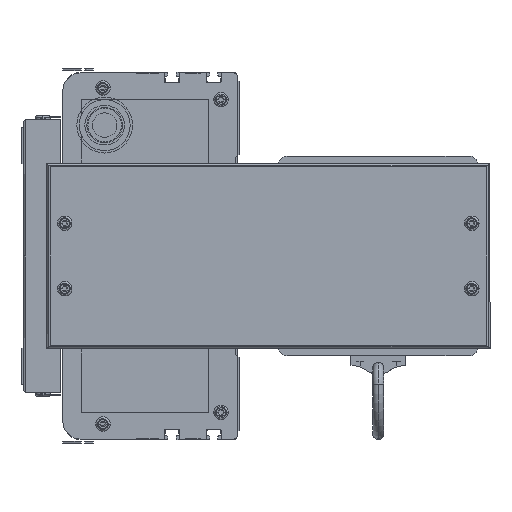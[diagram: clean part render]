
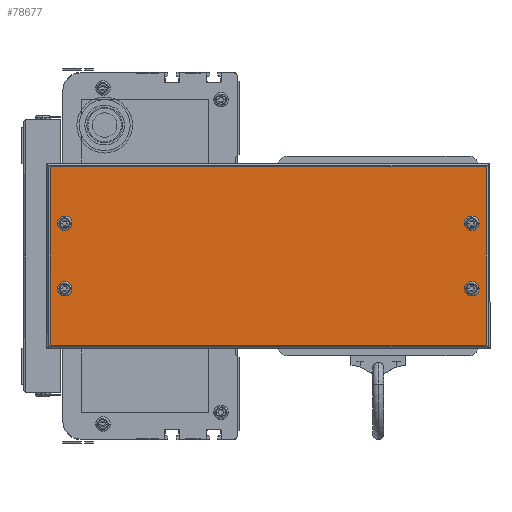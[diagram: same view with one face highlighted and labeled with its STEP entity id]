
A CAD part, left-side view. The second image highlights one B-rep face of the part: STEP entity #78677.
In plain terms, the highlighted planar face has unit normal (-1, 0, 0) as drawn and (1, 0, 0) by its records, which use the part's own axes.
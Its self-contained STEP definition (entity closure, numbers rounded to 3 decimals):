
#26297 = AXIS2_PLACEMENT_3D ( 'NONE', #26326, #26311, #26310 ) ;
#26308 = CARTESIAN_POINT ( 'NONE',  ( 50., 234., -30.5 ) ) ;
#26310 = DIRECTION ( 'NONE',  ( 0., 0., -1. ) ) ;
#26311 = DIRECTION ( 'NONE',  ( 1., 0., 0. ) ) ;
#26313 = CIRCLE ( 'NONE', #26297, 2.5 ) ;
#26319 = CARTESIAN_POINT ( 'NONE',  ( 50., 234., -35.5 ) ) ;
#26326 = CARTESIAN_POINT ( 'NONE',  ( 50., 234., -33. ) ) ;
#27060 = CARTESIAN_POINT ( 'NONE',  ( 50., 10., -66.5 ) ) ;
#28652 = CARTESIAN_POINT ( 'NONE',  ( 50., 2., -100. ) ) ;
#28706 = DIRECTION ( 'NONE',  ( 0., 1., 0. ) ) ;
#28708 = VECTOR ( 'NONE', #28706, 1000. ) ;
#28709 = CARTESIAN_POINT ( 'NONE',  ( 50., 244., -100. ) ) ;
#28713 = LINE ( 'NONE', #28709, #28708 ) ;
#29557 = DIRECTION ( 'NONE',  ( 0., -1., 0. ) ) ;
#29559 = VECTOR ( 'NONE', #29557, 1000. ) ;
#29560 = CARTESIAN_POINT ( 'NONE',  ( 50., 244., -2. ) ) ;
#29568 = VECTOR ( 'NONE', #29576, 1000. ) ;
#29576 = DIRECTION ( 'NONE',  ( 0., 0., -1. ) ) ;
#29578 = CARTESIAN_POINT ( 'NONE',  ( 50., 2., 0. ) ) ;
#29606 = LINE ( 'NONE', #29560, #29559 ) ;
#29614 = LINE ( 'NONE', #29578, #29568 ) ;
#29629 = CARTESIAN_POINT ( 'NONE',  ( 50., 10., -33. ) ) ;
#29633 = AXIS2_PLACEMENT_3D ( 'NONE', #29629, #29759, #29757 ) ;
#29754 = AXIS2_PLACEMENT_3D ( 'NONE', #29888, #29847, #29845 ) ;
#29756 = CIRCLE ( 'NONE', #29763, 2.5 ) ;
#29757 = DIRECTION ( 'NONE',  ( 0., 0., -1. ) ) ;
#29759 = DIRECTION ( 'NONE',  ( 1., 0., 0. ) ) ;
#29763 = AXIS2_PLACEMENT_3D ( 'NONE', #29789, #29881, #29878 ) ;
#29779 = CIRCLE ( 'NONE', #29633, 2.5 ) ;
#29789 = CARTESIAN_POINT ( 'NONE',  ( 50., 234., -69. ) ) ;
#29845 = DIRECTION ( 'NONE',  ( 0., 0., -1. ) ) ;
#29847 = DIRECTION ( 'NONE',  ( 1., 0., 0. ) ) ;
#29861 = CIRCLE ( 'NONE', #29754, 2.5 ) ;
#29878 = DIRECTION ( 'NONE',  ( 0., 0., -1. ) ) ;
#29881 = DIRECTION ( 'NONE',  ( 1., 0., 0. ) ) ;
#29888 = CARTESIAN_POINT ( 'NONE',  ( 50., 234., -33. ) ) ;
#29897 = CARTESIAN_POINT ( 'NONE',  ( 50., 242., -2. ) ) ;
#29970 = AXIS2_PLACEMENT_3D ( 'NONE', #30096, #30064, #30062 ) ;
#30062 = DIRECTION ( 'NONE',  ( 0., 0., -1. ) ) ;
#30064 = DIRECTION ( 'NONE',  ( 1., 0., 0. ) ) ;
#30096 = CARTESIAN_POINT ( 'NONE',  ( 50., 10., -69. ) ) ;
#30102 = CIRCLE ( 'NONE', #29970, 2.5 ) ;
#30135 = CARTESIAN_POINT ( 'NONE',  ( 50., 242., -100. ) ) ;
#77974 = EDGE_CURVE ( 'NONE', #77978, #77975, #26313, .T. ) ;
#77975 = VERTEX_POINT ( 'NONE', #26319 ) ;
#77978 = VERTEX_POINT ( 'NONE', #26308 ) ;
#78193 = VERTEX_POINT ( 'NONE', #27060 ) ;
#78480 = VERTEX_POINT ( 'NONE', #149163 ) ;
#78483 = VERTEX_POINT ( 'NONE', #149207 ) ;
#78492 = ORIENTED_EDGE ( 'NONE', *, *, #109027, .T. ) ;
#78495 = EDGE_LOOP ( 'NONE', ( #111345, #111126 ) ) ;
#78546 = EDGE_CURVE ( 'NONE', #78550, #78483, #149220, .T. ) ;
#78550 = VERTEX_POINT ( 'NONE', #149208 ) ;
#78565 = VERTEX_POINT ( 'NONE', #149253 ) ;
#78616 = EDGE_CURVE ( 'NONE', #111353, #111281, #152119, .T. ) ;
#78656 = VERTEX_POINT ( 'NONE', #149337 ) ;
#78671 = EDGE_CURVE ( 'NONE', #78193, #78565, #149328, .T. ) ;
#78677 = ADVANCED_FACE ( 'NONE', ( #149424, #149434, #149439, #149417, #149416 ), #149438, .F. ) ;
#78683 = VERTEX_POINT ( 'NONE', #149482 ) ;
#78707 = EDGE_CURVE ( 'NONE', #78656, #78480, #149461, .T. ) ;
#109027 = EDGE_CURVE ( 'NONE', #109042, #111353, #28713, .T. ) ;
#109041 = ORIENTED_EDGE ( 'NONE', *, *, #111128, .F. ) ;
#109042 = VERTEX_POINT ( 'NONE', #28652 ) ;
#109145 = EDGE_LOOP ( 'NONE', ( #109041, #111140 ) ) ;
#109255 = ORIENTED_EDGE ( 'NONE', *, *, #77974, .F. ) ;
#111050 = ORIENTED_EDGE ( 'NONE', *, *, #111081, .T. ) ;
#111054 = ORIENTED_EDGE ( 'NONE', *, *, #111086, .T. ) ;
#111081 = EDGE_CURVE ( 'NONE', #78683, #109042, #29614, .T. ) ;
#111086 = EDGE_CURVE ( 'NONE', #111281, #78683, #29606, .T. ) ;
#111100 = EDGE_LOOP ( 'NONE', ( #111054, #111050, #78492, #111278 ) ) ;
#111126 = ORIENTED_EDGE ( 'NONE', *, *, #78671, .F. ) ;
#111128 = EDGE_CURVE ( 'NONE', #78480, #78656, #29779, .T. ) ;
#111134 = ORIENTED_EDGE ( 'NONE', *, *, #111154, .F. ) ;
#111138 = EDGE_LOOP ( 'NONE', ( #111134, #109255 ) ) ;
#111140 = ORIENTED_EDGE ( 'NONE', *, *, #78707, .F. ) ;
#111142 = EDGE_CURVE ( 'NONE', #78483, #78550, #29756, .T. ) ;
#111144 = ORIENTED_EDGE ( 'NONE', *, *, #78546, .F. ) ;
#111154 = EDGE_CURVE ( 'NONE', #77975, #77978, #29861, .T. ) ;
#111278 = ORIENTED_EDGE ( 'NONE', *, *, #78616, .T. ) ;
#111281 = VERTEX_POINT ( 'NONE', #29897 ) ;
#111338 = EDGE_CURVE ( 'NONE', #78565, #78193, #30102, .T. ) ;
#111341 = ORIENTED_EDGE ( 'NONE', *, *, #111142, .F. ) ;
#111345 = ORIENTED_EDGE ( 'NONE', *, *, #111338, .F. ) ;
#111348 = EDGE_LOOP ( 'NONE', ( #111341, #111144 ) ) ;
#111353 = VERTEX_POINT ( 'NONE', #30135 ) ;
#149163 = CARTESIAN_POINT ( 'NONE',  ( 50., 10., -35.5 ) ) ;
#149207 = CARTESIAN_POINT ( 'NONE',  ( 50., 234., -71.5 ) ) ;
#149208 = CARTESIAN_POINT ( 'NONE',  ( 50., 234., -66.5 ) ) ;
#149216 = DIRECTION ( 'NONE',  ( 0., 0., -1. ) ) ;
#149217 = DIRECTION ( 'NONE',  ( 1., 0., 0. ) ) ;
#149218 = CARTESIAN_POINT ( 'NONE',  ( 50., 234., -69. ) ) ;
#149219 = AXIS2_PLACEMENT_3D ( 'NONE', #149218, #149217, #149216 ) ;
#149220 = CIRCLE ( 'NONE', #149219, 2.5 ) ;
#149253 = CARTESIAN_POINT ( 'NONE',  ( 50., 10., -71.5 ) ) ;
#149328 = CIRCLE ( 'NONE', #149440, 2.5 ) ;
#149337 = CARTESIAN_POINT ( 'NONE',  ( 50., 10., -30.5 ) ) ;
#149361 = CARTESIAN_POINT ( 'NONE',  ( 50., 10., -69. ) ) ;
#149362 = DIRECTION ( 'NONE',  ( 1., 0., 0. ) ) ;
#149416 = FACE_BOUND ( 'NONE', #111138, .T. ) ;
#149417 = FACE_BOUND ( 'NONE', #111348, .T. ) ;
#149418 = DIRECTION ( 'NONE',  ( -1., 0., 0. ) ) ;
#149423 = AXIS2_PLACEMENT_3D ( 'NONE', #149427, #149418, #149433 ) ;
#149424 = FACE_OUTER_BOUND ( 'NONE', #111100, .T. ) ;
#149425 = DIRECTION ( 'NONE',  ( 0., 0., -1. ) ) ;
#149426 = DIRECTION ( 'NONE',  ( 1., 0., 0. ) ) ;
#149427 = CARTESIAN_POINT ( 'NONE',  ( 50., 244., 0. ) ) ;
#149433 = DIRECTION ( 'NONE',  ( 0., 0., 1. ) ) ;
#149434 = FACE_BOUND ( 'NONE', #78495, .T. ) ;
#149438 = PLANE ( 'NONE',  #149423 ) ;
#149439 = FACE_BOUND ( 'NONE', #109145, .T. ) ;
#149440 = AXIS2_PLACEMENT_3D ( 'NONE', #149361, #149426, #149425 ) ;
#149461 = CIRCLE ( 'NONE', #149478, 2.5 ) ;
#149478 = AXIS2_PLACEMENT_3D ( 'NONE', #149481, #149362, #149515 ) ;
#149481 = CARTESIAN_POINT ( 'NONE',  ( 50., 10., -33. ) ) ;
#149482 = CARTESIAN_POINT ( 'NONE',  ( 50., 2., -2. ) ) ;
#149515 = DIRECTION ( 'NONE',  ( 0., 0., -1. ) ) ;
#152100 = DIRECTION ( 'NONE',  ( 0., 0., 1. ) ) ;
#152102 = VECTOR ( 'NONE', #152100, 1000. ) ;
#152118 = CARTESIAN_POINT ( 'NONE',  ( 50., 242., 0. ) ) ;
#152119 = LINE ( 'NONE', #152118, #152102 ) ;
